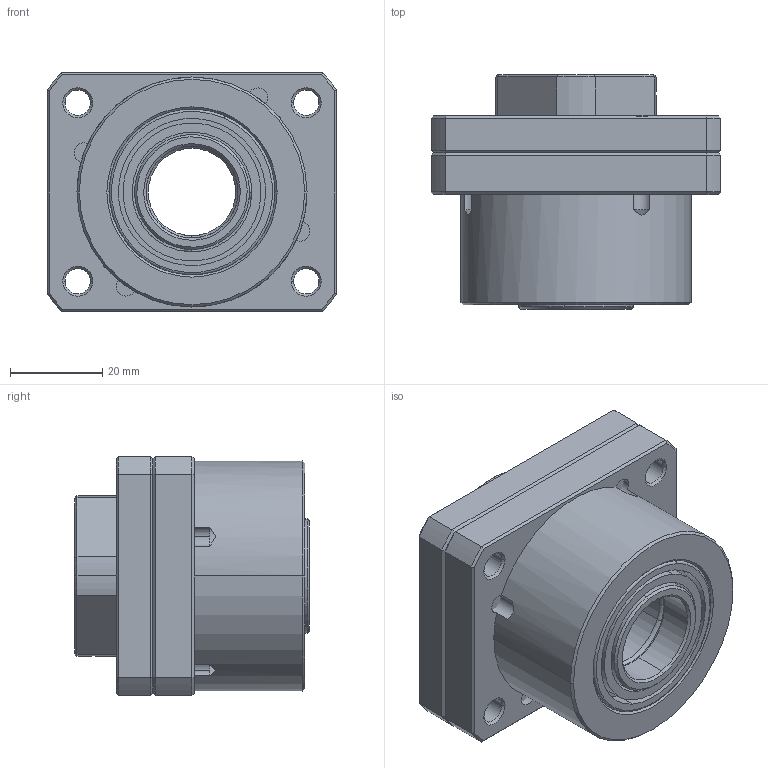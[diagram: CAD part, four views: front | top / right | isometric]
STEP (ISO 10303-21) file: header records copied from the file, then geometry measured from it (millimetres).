
FILE_DESCRIPTION (( 'STEP AP203' ), '1' );
FILE_NAME ('FKA20L ²Õ¦X¹ÏA.STEP', '2021-09-29T02:57:15', ( '' ), ( '' ), 'SwSTEP 2.0', 'SolidWorks 2018', '' );
FILE_SCHEMA (( 'CONFIG_CONTROL_DESIGN' ));
Length unit declared in the file: millimetre
Products named in the file (1): FKA20L 組合圖A
Bounding box: 63 x 51 x 52 mm (x, y, z)
Surface area: 26031.9 mm2 (no closed solid volume)
Topology: 0 solids, 17 shells, 244 faces, 631 edges, 401 vertices
Faces by surface type: plane 83, cylinder 81, cone 66, torus 10, bspline 4
Entity records: 7960 total; most frequent: CARTESIAN_POINT 1895, DIRECTION 1328, ORIENTED_EDGE 1129, EDGE_CURVE 631, AXIS2_PLACEMENT_3D 532, VERTEX_POINT 401, CIRCLE 291, EDGE_LOOP 282
